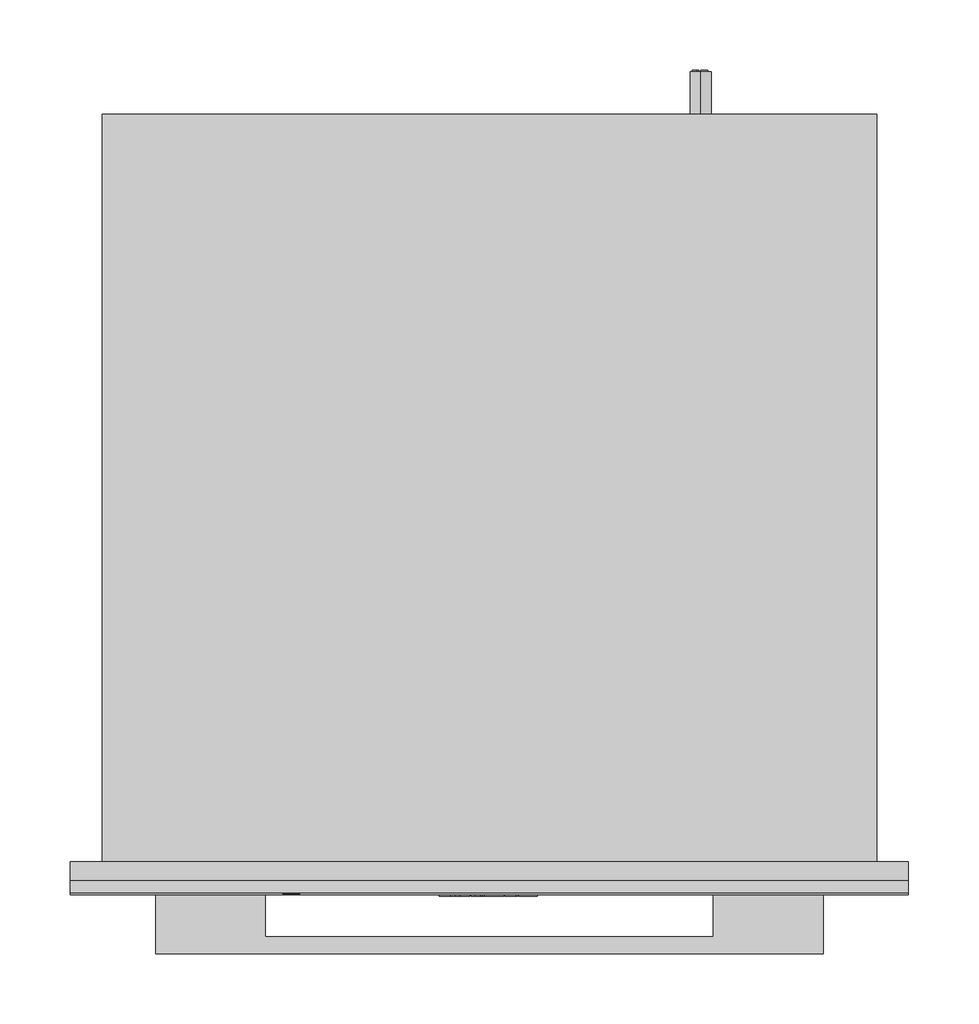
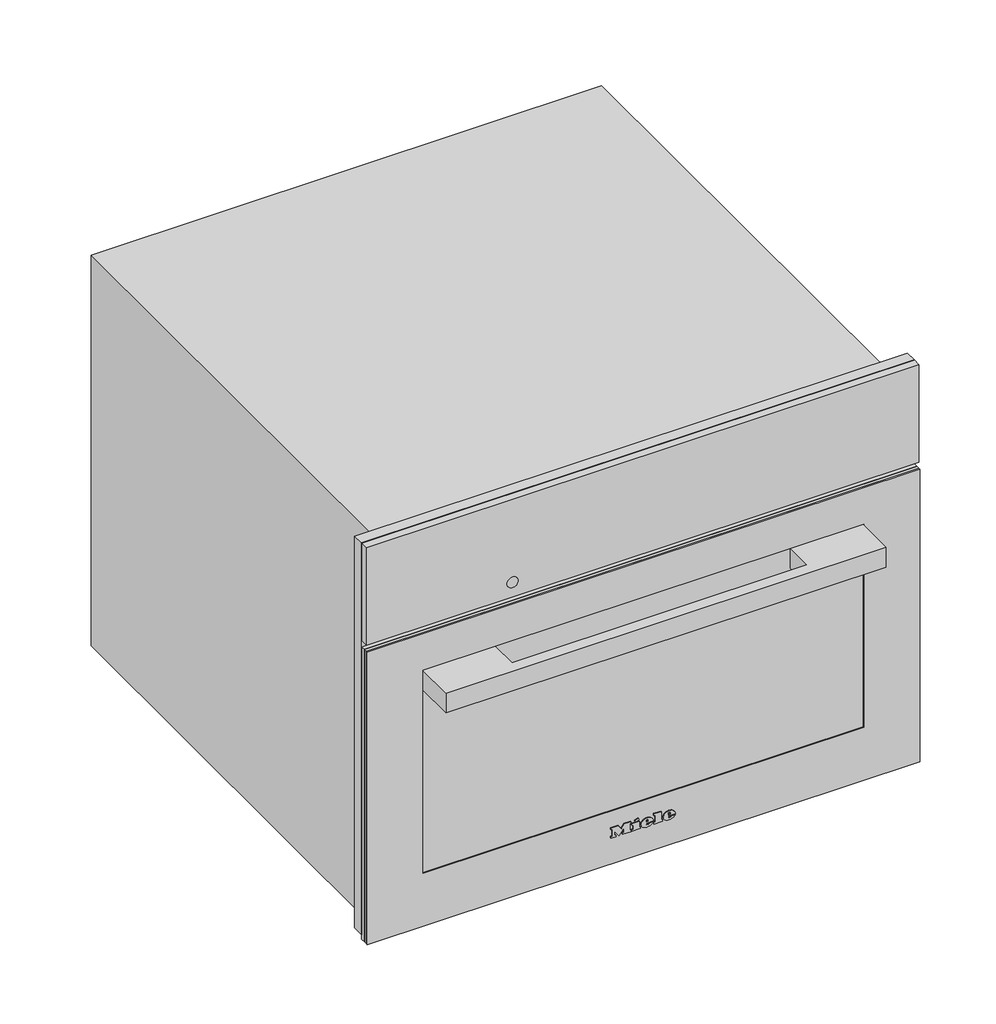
# Not in any storey: 1 proxy.
"""IFC4 building model written with IfcOpenShell, lengths in millimetres."""

import ifcopenshell
import ifcopenshell.guid

model = None  # the IFC model being written
_history = None  # IfcOwnerHistory: only IFC2X3 demands one
_inside = {}  # id of a spatial element -> (the spatial element, [elements in it])
_under = {}  # id of a project, library or spatial element -> (it, [spatial elements below it])
_declared = {}  # id of a project -> (the project, [libraries it declares])
_typed = {}  # id of a type object -> (the type object, [elements of that type])
_made_of = {}  # id of a material, layer set ... -> (it, [elements and type objects made of it])


def new_model(schema):
    """Start an empty IFC model of exactly this schema.

    Asked for "IFC4X3", IfcOpenShell would pick the latest addendum, in which some entities
    have other attributes; the version numbers below select the first issue.
    IFC2X3 requires an IfcOwnerHistory on every rooted entity: one is made here for all.
    """
    global model, _history
    if schema == "IFC4X3":
        model = ifcopenshell.file(schema_version=(4, 3, 0, 0))
    else:
        model = ifcopenshell.file(schema=schema)
    _inside.clear()
    _under.clear()
    _declared.clear()
    _typed.clear()
    _made_of.clear()
    _history = None
    if model.schema == "IFC2X3":
        org = make("IfcOrganization", Name="unknown")
        user = make(
            "IfcPersonAndOrganization",
            ThePerson=make("IfcPerson", FamilyName="unknown"),
            TheOrganization=org,
        )
        app = make(
            "IfcApplication",
            ApplicationDeveloper=org,
            Version="unknown",
            ApplicationFullName="unknown",
            ApplicationIdentifier="unknown",
        )
        _history = make(
            "IfcOwnerHistory",
            OwningUser=user,
            OwningApplication=app,
            ChangeAction="ADDED",
            CreationDate=0,
        )
    return model


def make(cls, **values):
    """One entity of the class cls with the attributes given. An attribute that is None is left unset."""
    return model.create_entity(
        cls, **{name: value for name, value in values.items() if value is not None}
    )


def rooted(cls, **values):
    """An entity with a GlobalId (a new one), such as an element, a storey or a relation."""
    return make(cls, GlobalId=ifcopenshell.guid.new(), OwnerHistory=_history, **values)


def si_unit(unit_type, name, prefix=None):
    """IfcSIUnit, for example si_unit("LENGTHUNIT", "METRE", prefix="MILLI")."""
    return make("IfcSIUnit", UnitType=unit_type, Prefix=prefix, Name=name)


def assignment(units):
    """IfcUnitAssignment: the units of a project."""
    return None if units is None else make("IfcUnitAssignment", Units=units)


def point(xyz):
    """IfcCartesianPoint."""
    return None if xyz is None else make("IfcCartesianPoint", Coordinates=xyz)


def direction(xyz):
    """IfcDirection."""
    return None if xyz is None else make("IfcDirection", DirectionRatios=xyz)


def frame(location, z_axis=None, x_axis=None):
    """IfcAxis2Placement3D, a coordinate frame: its origin and axes. An axis left out is left unset."""
    return make(
        "IfcAxis2Placement3D",
        Location=point(location),
        Axis=direction(z_axis),
        RefDirection=direction(x_axis),
    )


def frame_2d(location, x_axis=None):
    """IfcAxis2Placement2D, a coordinate frame in the plane: its origin and x axis."""
    return make(
        "IfcAxis2Placement2D", Location=point(location), RefDirection=direction(x_axis)
    )


def origin():
    """The frame at (0, 0, 0) with its axes left unset."""
    return frame((0.0, 0.0, 0.0))


def place(relative_to, where):
    """IfcLocalPlacement: puts the frame where relative to a parent placement (None: the world)."""
    return make(
        "IfcLocalPlacement", PlacementRelTo=relative_to, RelativePlacement=where
    )


def context(
    kind, dimensions, precision=None, world=None, true_north=None, identifier=None
):
    """IfcGeometricRepresentationContext, for example the 3D "Model" context."""
    return make(
        "IfcGeometricRepresentationContext",
        ContextIdentifier=identifier,
        ContextType=kind,
        CoordinateSpaceDimension=dimensions,
        Precision=precision,
        WorldCoordinateSystem=world,
        TrueNorth=true_north,
    )


def project(units=None, contexts=None):
    """IfcProject with its units and contexts."""
    return rooted(
        "IfcProject",
        Name="project",
        RepresentationContexts=contexts,
        UnitsInContext=assignment(units),
    )


def spatial(cls, under=None, at=None, **own):
    """A site, building, storey or space (cls), placed at a placement, below another one or the project."""
    s = rooted(cls, ObjectPlacement=at, **own)
    if under is not None:
        _under.setdefault(under.id(), (under, []))[1].append(s)
    return s


def polyline(points):
    """IfcPolyline through the points."""
    return make("IfcPolyline", Points=[point(p) for p in points])


def circle_curve(where, radius):
    """IfcCircle in the frame where."""
    return make("IfcCircle", Position=where, Radius=radius)


def ellipse_curve(where, semi_axis1, semi_axis2):
    """IfcEllipse in the frame where."""
    return make(
        "IfcEllipse", Position=where, SemiAxis1=semi_axis1, SemiAxis2=semi_axis2
    )


def trimmed(basis, trim1, trim2, sense, master):
    """IfcTrimmedCurve: the piece of a basis curve between two trims."""
    return make(
        "IfcTrimmedCurve",
        BasisCurve=basis,
        Trim1=trim1,
        Trim2=trim2,
        SenseAgreement=sense,
        MasterRepresentation=master,
    )


def segment(curve, same_sense, transition):
    """IfcCompositeCurveSegment."""
    return make(
        "IfcCompositeCurveSegment",
        Transition=transition,
        SameSense=same_sense,
        ParentCurve=curve,
    )


def composite_curve(segments, self_intersect=None):
    """IfcCompositeCurve: segments joined end to end."""
    return make("IfcCompositeCurve", Segments=segments, SelfIntersect=self_intersect)


def outline(outer, holes=None, kind="AREA"):
    """IfcArbitraryClosedProfileDef: a profile drawn as a closed curve; with holes, ...WithVoids."""
    if holes is None:
        return make("IfcArbitraryClosedProfileDef", ProfileType=kind, OuterCurve=outer)
    return make(
        "IfcArbitraryProfileDefWithVoids",
        ProfileType=kind,
        OuterCurve=outer,
        InnerCurves=holes,
    )


def extrude(swept, where, along, depth):
    """IfcExtrudedAreaSolid: the profile swept, set in the frame where, extruded along a direction by depth."""
    return make(
        "IfcExtrudedAreaSolid",
        SweptArea=swept,
        Position=where,
        ExtrudedDirection=direction(along),
        Depth=depth,
    )


def faces_of(points, faces, orient=None, outer=None):
    """IfcFace entities. A face is a list of loops; a loop is a list of indices into points, from 0.

    orient and outer hold one flag for each loop. By default every Orientation is true, the
    first loop of a face is its IfcFaceOuterBound and the others are IfcFaceBound.
    """
    made = []
    for i, loops in enumerate(faces):
        bounds = []
        for j, loop in enumerate(loops):
            is_outer = j == 0 if outer is None else outer[i][j]
            bounds.append(
                make(
                    "IfcFaceOuterBound" if is_outer else "IfcFaceBound",
                    Bound=make("IfcPolyLoop", Polygon=[points[k] for k in loop]),
                    Orientation=True if orient is None else orient[i][j],
                )
            )
        made.append(make("IfcFace", Bounds=bounds))
    return made


def faceted_brep(points, faces, orient=None, outer=None, voids=None):
    """IfcFacetedBrep: a solid bounded by flat faces; with voids (closed shells), ...WithVoids."""
    shared = [point(p) for p in points]
    hull = make("IfcClosedShell", CfsFaces=faces_of(shared, faces, orient, outer))
    if voids is None:
        return make("IfcFacetedBrep", Outer=hull)
    return make(
        "IfcFacetedBrepWithVoids",
        Outer=hull,
        Voids=[
            make(cls, CfsFaces=faces_of(shared, fs, o, b)) for cls, fs, o, b in voids
        ],
    )


def shape(context_of_items, identifier, shape_type, items):
    """IfcShapeRepresentation: the items that make up one representation, for example the "Body"."""
    return make(
        "IfcShapeRepresentation",
        ContextOfItems=context_of_items,
        RepresentationIdentifier=identifier,
        RepresentationType=shape_type,
        Items=items,
    )


def source(mapping_origin, context_of_items, identifier, shape_type, items):
    """IfcRepresentationMap: a shape defined once, which mapped items show again and again."""
    return make(
        "IfcRepresentationMap",
        MappingOrigin=mapping_origin,
        MappedRepresentation=shape(context_of_items, identifier, shape_type, items),
    )


def transform(
    local_origin,
    x_axis=None,
    y_axis=None,
    z_axis=None,
    scale=None,
    scale2=None,
    scale3=None,
    uniform=True,
):
    """IfcCartesianTransformationOperator3D, or its non-uniform kind. x_axis, y_axis, z_axis: its Axis1, 2, 3."""
    if uniform:
        return make(
            "IfcCartesianTransformationOperator3D",
            Axis1=direction(x_axis),
            Axis2=direction(y_axis),
            LocalOrigin=point(local_origin),
            Scale=scale,
            Axis3=direction(z_axis),
        )
    return make(
        "IfcCartesianTransformationOperator3DnonUniform",
        Axis1=direction(x_axis),
        Axis2=direction(y_axis),
        LocalOrigin=point(local_origin),
        Scale=scale,
        Axis3=direction(z_axis),
        Scale2=scale2,
        Scale3=scale3,
    )


def mapped(mapping_source, mapping_target):
    """IfcMappedItem: shows the shape of a source again, moved by a transform."""
    return make(
        "IfcMappedItem", MappingSource=mapping_source, MappingTarget=mapping_target
    )


def made_of(thing, what):
    """Note that an element or type object is made of a material, layer set ...; save() writes the relation."""
    if what is not None:
        _made_of.setdefault(what.id(), (what, []))[1].append(thing)
    return thing


def element(
    cls,
    number,
    at=None,
    inside=None,
    cuts=None,
    type_object=None,
    material=None,
    context=None,
    identifier="Body",
    shape_type=None,
    held_by="IfcProductDefinitionShape",
    body=None,
    shapes=None,
    **own,
):
    """One element of the class cls, such as IfcWall. Its Tag is "e" and its number.

    at: its placement. inside: the storey or other place that contains it. cuts: it is an
    opening in that element (IfcRelVoidsElement). A single representation is given by context,
    identifier, shape_type and body (its items); several are given by shapes. held_by: the class
    of the entity that holds the representations. save() writes the other relations.
    """
    e = rooted(cls, Tag="e%d" % number, ObjectPlacement=at, **own)
    if body is not None:
        shapes = [shape(context, identifier, shape_type, body)]
    if shapes is not None:
        e.Representation = make(held_by, Representations=shapes)
    if inside is not None:
        _inside.setdefault(inside.id(), (inside, []))[1].append(e)
    if cuts is not None:
        rooted(
            "IfcRelVoidsElement", RelatingBuildingElement=cuts, RelatedOpeningElement=e
        )
    if type_object is not None:
        _typed.setdefault(type_object.id(), (type_object, []))[1].append(e)
    return made_of(e, material)


def aggregate(whole, parts):
    """IfcRelAggregates: a whole, such as a stair, and the parts it consists of."""
    return rooted("IfcRelAggregates", RelatingObject=whole, RelatedObjects=parts)


def save(model, path):
    """Write the relations noted so far, then the file.

    IfcRelAggregates (storeys below a building ...), IfcRelContainedInSpatialStructure (elements
    in a storey), IfcRelDefinesByType, IfcRelAssociatesMaterial and IfcRelDeclares: one each for
    every whole, place, type object, material and project.
    """
    for whole, parts in _under.values():
        aggregate(whole, parts)
    for where, things in _inside.values():
        rooted(
            "IfcRelContainedInSpatialStructure",
            RelatedElements=things,
            RelatingStructure=where,
        )
    for kind, things in _typed.values():
        rooted("IfcRelDefinesByType", RelatedObjects=things, RelatingType=kind)
    for what, things in _made_of.values():
        rooted("IfcRelAssociatesMaterial", RelatedObjects=things, RelatingMaterial=what)
    for by, libraries in _declared.values():
        rooted("IfcRelDeclares", RelatingContext=by, RelatedDefinitions=libraries)
    model.write(path)


def plane_surface(at):
    """IfcPlane: the flat surface through the origin of the frame at, square to its z axis."""
    return make("IfcPlane", Position=at)


def cylinder_surface(at, radius):
    """IfcCylindricalSurface: all points at the distance radius from the z axis of the frame at."""
    return make("IfcCylindricalSurface", Position=at, Radius=radius)


def revolved_surface(curve, axis_point, axis_direction):
    """IfcSurfaceOfRevolution: the curve turned about the line through axis_point along axis_direction."""
    return make(
        "IfcSurfaceOfRevolution",
        SweptCurve=make("IfcArbitraryOpenProfileDef", ProfileType="CURVE", Curve=curve),
        AxisPosition=make("IfcAxis1Placement", Location=point(axis_point), Axis=direction(axis_direction)),
    )


def extruded_surface(curve, direction_of_extrusion, depth):
    """IfcSurfaceOfLinearExtrusion: the curve pushed along a direction by depth."""
    return make(
        "IfcSurfaceOfLinearExtrusion",
        SweptCurve=make("IfcArbitraryOpenProfileDef", ProfileType="CURVE", Curve=curve),
        ExtrudedDirection=direction(direction_of_extrusion),
        Depth=depth,
    )


def advanced_brep(points, edges, surfaces, faces):
    """IfcAdvancedBrep: a solid bounded by faces that lie on surfaces and meet in shared edges.

    An edge is (start, end): straight between two places in points (the first is 0);
    or (start, end, curve); or (start, end, curve, False) where it runs against its curve.
    A face is (place in surfaces, loops), or (place, loops, False) where it looks against
    its surface's normal. A loop lists edges by number (the first is 1), with a minus sign
    where the edge is run from its end to its start. The first loop is the outer one.
    """
    corners = [point(p) for p in points]
    vertices = [make("IfcVertexPoint", VertexGeometry=c) for c in corners]
    made = []
    for start, end, *more in edges:
        made.append(
            make(
                "IfcEdgeCurve",
                EdgeStart=vertices[start],
                EdgeEnd=vertices[end],
                EdgeGeometry=more[0] if more else make("IfcPolyline", Points=[corners[start], corners[end]]),
                SameSense=more[1] if len(more) > 1 else True,
            )
        )
    hull = []
    for where, loops, *sense in faces:
        bounds = []
        for j, loop in enumerate(loops):
            ring = [make("IfcOrientedEdge", EdgeElement=made[abs(k) - 1], Orientation=k > 0) for k in loop]
            bounds.append(
                make(
                    "IfcFaceOuterBound" if j == 0 else "IfcFaceBound",
                    Bound=make("IfcEdgeLoop", EdgeList=ring),
                    Orientation=True,
                )
            )
        hull.append(make("IfcAdvancedFace", Bounds=bounds, FaceSurface=surfaces[where], SameSense=sense[0] if sense else True))
    return make("IfcAdvancedBrep", Outer=make("IfcClosedShell", CfsFaces=hull))


def specialty_equipment_3689ec75(model_context):
    return source(origin(), model_context, "Body", "SolidModel", [
        extrude(outline(polyline([(455.0, 297.5), (455.0, -297.5), (9.0, -297.5), (9.0, -272.5), (344.0, -272.5), (344.0, 272.5), (9.0, 272.5), (9.0, 297.5), (455.0, 297.5)])), frame((0.0, -13.0, 0.0), z_axis=(0.0, 1.0, 0.0), x_axis=(0.0, 0.0, 1.0)), (0.0, 0.0, 1.0), 13.0),
        advanced_brep(
        [(150.0, 561.0, 410.5), (150.0, 561.0, 395.5), (144.4098301, 561.0, 398.0), (148.5, 561.0, 398.0), (148.5, 561.0, 408.0), (147.4955303, 561.0, 408.0), (147.4955303, 561.0, 399.0), (144.0315043, 561.0, 399.0), (144.0315043, 561.0, 398.4582978), (155.0, 561.0, 398.0), (155.0, 561.0, 408.0), (150.0, 561.0, 408.0), (150.0, 561.0, 407.0), (154.0, 561.0, 407.0), (154.0, 561.0, 403.5), (151.0, 561.0, 403.5), (151.0, 561.0, 402.5), (154.0, 561.0, 402.5), (154.0, 561.0, 399.0), (150.0, 561.0, 399.0), (150.0, 561.0, 398.0), (150.0, 531.0, 395.5), (150.0, 531.0, 410.5), (155.0, 562.0, 408.0), (155.0, 562.0, 398.0), (150.0, 562.0, 398.0), (150.0, 562.0, 399.0), (154.0, 562.0, 399.0), (154.0, 562.0, 402.5), (151.0, 562.0, 402.5), (151.0, 562.0, 403.5), (154.0, 562.0, 403.5), (154.0, 562.0, 407.0), (150.0, 562.0, 407.0), (150.0, 562.0, 408.0), (148.5, 562.0, 398.0), (144.0315043, 562.0, 398.0), (144.0315043, 562.0, 399.0), (147.4955303, 562.0, 399.0), (147.4955303, 562.0, 408.0), (148.5, 562.0, 408.0), (144.0315043, 561.0, 398.0)],
        [
            (0, 1, circle_curve(frame((150.0, 561.0, 403.0), z_axis=(0.0, 1.0, 0.0), x_axis=(0.0, 0.0, 1.0)), 7.5)),
            (1, 2, circle_curve(frame((150.0, 561.0, 403.0), z_axis=(0.0, 1.0, 0.0), x_axis=(0.0, 0.0, 1.0)), 7.5)),
            (2, 3),
            (3, 4),
            (4, 5),
            (5, 6),
            (6, 7),
            (7, 8),
            (8, 0, circle_curve(frame((150.0, 561.0, 403.0), z_axis=(0.0, 1.0, 0.0), x_axis=(0.0, 0.0, 1.0)), 7.5)),
            (9, 10),
            (10, 11),
            (11, 12),
            (12, 13),
            (13, 14),
            (14, 15),
            (15, 16),
            (16, 17),
            (17, 18),
            (18, 19),
            (19, 20),
            (20, 9),
            (21, 22, circle_curve(frame((150.0, 531.0, 403.0), z_axis=(0.0, -1.0, 0.0), x_axis=(0.0, 0.0, 1.0)), 7.5)),
            (22, 21, circle_curve(frame((150.0, 531.0, 403.0), z_axis=(0.0, -1.0, 0.0), x_axis=(0.0, 0.0, 1.0)), 7.5)),
            (0, 22),
            (21, 1),
            (8, 2, circle_curve(frame((150.0, 561.0, 403.0), z_axis=(0.0, -1.0, 0.0), x_axis=(0.0, 0.0, 1.0)), 7.5)),
            (23, 24),
            (24, 25),
            (25, 26),
            (26, 27),
            (27, 28),
            (28, 29),
            (29, 30),
            (30, 31),
            (31, 32),
            (32, 33),
            (33, 34),
            (34, 23),
            (35, 36),
            (36, 37),
            (37, 38),
            (38, 39),
            (39, 40),
            (40, 35),
            (8, 41),
            (41, 2),
            (23, 10),
            (9, 24),
            (20, 25),
            (19, 26),
            (18, 27),
            (17, 28),
            (16, 29),
            (15, 30),
            (14, 31),
            (13, 32),
            (12, 33),
            (11, 34),
            (35, 3),
            (41, 36),
            (7, 37),
            (6, 38),
            (5, 39),
            (4, 40),
        ],
        [
            plane_surface(frame((150.0, 561.0, 410.5), z_axis=(0.0, 1.0, 0.0), x_axis=(1.0, 0.0, 0.0))),
            plane_surface(frame((150.0, 531.0, 410.5), z_axis=(0.0, -1.0, 0.0), x_axis=(-1.0, 0.0, 0.0))),
            cylinder_surface(frame((150.0, 561.0, 403.0), z_axis=(0.0, -1.0, 0.0), x_axis=(0.0, 0.0, 1.0)), 7.5),
            plane_surface(frame((155.0, 562.0, 408.0), z_axis=(0.0, 1.0, 0.0), x_axis=(0.0, 0.0, -1.0))),
            plane_surface(frame((155.0, 561.0, 408.0), z_axis=(0.0, -1.0, 0.0), x_axis=(0.0, 0.0, 1.0))),
            plane_surface(frame((155.0, 562.0, 408.0), z_axis=(1.0, 0.0, 0.0), x_axis=(0.0, -1.0, 0.0))),
            plane_surface(frame((155.0, 562.0, 398.0), z_axis=(0.0, 0.0, -1.0), x_axis=(0.0, -1.0, 0.0))),
            plane_surface(frame((150.0, 562.0, 398.0), z_axis=(-1.0, 0.0, 0.0), x_axis=(0.0, -1.0, 0.0))),
            plane_surface(frame((150.0, 562.0, 399.0), z_axis=(0.0, 0.0, 1.0), x_axis=(0.0, -1.0, 0.0))),
            plane_surface(frame((154.0, 562.0, 399.0), z_axis=(-1.0, 0.0, 0.0), x_axis=(0.0, -1.0, 0.0))),
            plane_surface(frame((154.0, 562.0, 402.5), z_axis=(0.0, 0.0, -1.0), x_axis=(0.0, -1.0, 0.0))),
            plane_surface(frame((151.0, 562.0, 402.5), z_axis=(-1.0, 0.0, 0.0), x_axis=(0.0, -1.0, 0.0))),
            plane_surface(frame((151.0, 562.0, 403.5), z_axis=(0.0, 0.0, 1.0), x_axis=(0.0, -1.0, 0.0))),
            plane_surface(frame((154.0, 562.0, 403.5), z_axis=(-1.0, 0.0, 0.0), x_axis=(0.0, -1.0, 0.0))),
            plane_surface(frame((154.0, 562.0, 407.0), z_axis=(0.0, 0.0, -1.0), x_axis=(0.0, -1.0, 0.0))),
            plane_surface(frame((150.0, 562.0, 407.0), z_axis=(-1.0, 0.0, 0.0), x_axis=(0.0, -1.0, 0.0))),
            plane_surface(frame((150.0, 562.0, 408.0), z_axis=(0.0, 0.0, 1.0), x_axis=(0.0, -1.0, 0.0))),
            plane_surface(frame((148.5, 562.0, 398.0), z_axis=(0.0, 0.0, -1.0), x_axis=(0.0, -1.0, 0.0))),
            plane_surface(frame((144.0315043, 562.0, 398.0), z_axis=(-1.0, 0.0, 0.0), x_axis=(0.0, -1.0, 0.0))),
            plane_surface(frame((144.0315043, 562.0, 399.0), z_axis=(0.0, 0.0, 1.0), x_axis=(0.0, -1.0, 0.0))),
            plane_surface(frame((147.4955303, 562.0, 399.0), z_axis=(-1.0, 0.0, 0.0), x_axis=(0.0, -1.0, 0.0))),
            plane_surface(frame((147.4955303, 562.0, 408.0), z_axis=(0.0, 0.0, 1.0), x_axis=(0.0, -1.0, 0.0))),
            plane_surface(frame((148.5, 562.0, 408.0), z_axis=(1.0, 0.0, 0.0), x_axis=(0.0, -1.0, 0.0))),
        ],
        [
            (0, [[1, 2, 3, 4, 5, 6, 7, 8, 9], [10, 11, 12, 13, 14, 15, 16, 17, 18, 19, 20, 21]]),
            (1, [[22, 23]]),
            (2, [[-1, 24, -22, 25]]),
            (2, [[-23, -24, -9, 26, -2, -25]]),
            (3, [[27, 28, 29, 30, 31, 32, 33, 34, 35, 36, 37, 38]]),
            (3, [[39, 40, 41, 42, 43, 44]]),
            (4, [[45, 46, -26]]),
            (5, [[-27, 47, -10, 48]]),
            (6, [[-28, -48, -21, 49]]),
            (7, [[-29, -49, -20, 50]]),
            (8, [[-30, -50, -19, 51]]),
            (9, [[-31, -51, -18, 52]]),
            (10, [[-32, -52, -17, 53]]),
            (11, [[-33, -53, -16, 54]]),
            (12, [[-34, -54, -15, 55]]),
            (13, [[-35, -55, -14, 56]]),
            (14, [[-36, -56, -13, 57]]),
            (15, [[-37, -57, -12, 58]]),
            (16, [[-38, -58, -11, -47]]),
            (17, [[-39, 59, -3, -46, 60]]),
            (18, [[-40, -60, -45, -8, 61]]),
            (19, [[-41, -61, -7, 62]]),
            (20, [[-42, -62, -6, 63]]),
            (21, [[-43, -63, -5, 64]]),
            (22, [[-44, -64, -4, -59]]),
        ],
    ),
        faceted_brep([(275.0, 531.0, 445.0), (275.0, 531.0, 0.0), (-275.0, 531.0, 0.0), (-275.0, 531.0, 445.0), (275.0, 0.0, 445.0), (-275.0, 0.0, 445.0), (-275.0, 0.0, 0.0), (275.0, 0.0, 0.0), (-272.5, 0.0, 344.0), (272.5, 0.0, 344.0), (272.5, 0.0, 8.0), (-272.5, 0.0, 8.0), (272.5, 12.0, 344.0), (-272.5, 12.0, 344.0), (-272.5, 12.0, 8.0), (272.5, 12.0, 8.0), (161.0, 12.0, 286.0), (161.0, 12.0, 58.0), (-220.0, 12.0, 58.0), (-220.0, 12.0, 286.0), (161.0, 419.0, 286.0), (-220.0, 419.0, 286.0), (-220.0, 419.0, 58.0), (161.0, 419.0, 58.0)], [[[0, 1, 2, 3]], [[4, 5, 6, 7], [8, 9, 10, 11]], [[0, 3, 5, 4]], [[3, 2, 6, 5]], [[2, 1, 7, 6]], [[1, 0, 4, 7]], [[12, 13, 14, 15], [16, 17, 18, 19]], [[13, 12, 9, 8]], [[14, 13, 8, 11]], [[15, 14, 11, 10]], [[12, 15, 10, 9]], [[20, 21, 22, 23]], [[20, 23, 17, 16]], [[23, 22, 18, 17]], [[22, 21, 19, 18]], [[21, 20, 16, 19]]]),
        advanced_brep(
        [(26.2998, -24.3, 36.7018), (26.2998, -24.3, 37.8532), (33.9264, -24.3, 37.8532), (20.6568, -24.3, 37.8532), (23.7918, -24.3, 34.0), (33.7326, -24.3, 36.7018), (30.2898, -24.3, 36.7018), (27.5766, -24.3, 35.425), (26.2998, -24.3, 39.3124), (26.2998, -24.3, 40.555), (28.2492, -24.3, 40.555), (28.2492, -24.3, 39.3124), (26.2998, -23.3, 36.7018), (27.5766, -23.3, 35.425), (30.2898, -23.3, 36.7018), (33.7326, -23.3, 36.7018), (23.7918, -23.3, 34.0), (20.6568, -23.3, 37.8532), (33.9264, -23.3, 37.8532), (26.2998, -23.3, 37.8532), (26.2998, -23.3, 39.3124), (28.2492, -23.3, 39.3124), (28.2492, -23.3, 40.555), (26.2998, -23.3, 40.555)],
        [
            (0, 1),
            (1, 2),
            (2, 3, ellipse_curve(frame((27.2916, -24.3, 37.8532), z_axis=(0.0, -1.0, 0.0), x_axis=(-1.0, 0.0, 0.0)), 6.6348, 5.4834)),
            (3, 4, circle_curve(frame((25.0686622, -24.3, 38.2408), z_axis=(0.0, -1.0, 0.0), x_axis=(0.0, 0.0, -1.0)), 4.4288556)),
            (4, 5, circle_curve(frame((27.1587808, -24.3, 41.2504), z_axis=(0.0, -1.0, 0.0), x_axis=(0.0, 0.0, -1.0)), 7.9940516)),
            (5, 6),
            (6, 7, circle_curve(frame((28.1338588, -24.3, 37.762), z_axis=(0.0, 1.0, 0.0), x_axis=(0.0, 0.0, -1.0)), 2.4025208)),
            (7, 0, circle_curve(frame((27.5766, -24.3, 36.7018), z_axis=(0.0, 1.0, 0.0), x_axis=(0.0, 0.0, -1.0)), 1.2768)),
            (8, 9),
            (9, 10, circle_curve(frame((27.2745, -24.3, 40.555), z_axis=(0.0, 1.0, 0.0), x_axis=(0.0, 0.0, -1.0)), 0.9747)),
            (10, 11),
            (11, 8),
            (12, 13, circle_curve(frame((27.5766, -23.3, 36.7018), z_axis=(0.0, -1.0, 0.0), x_axis=(0.0, 0.0, -1.0)), 1.2768)),
            (13, 14, circle_curve(frame((28.1338588, -23.3, 37.762), z_axis=(0.0, -1.0, 0.0), x_axis=(0.0, 0.0, -1.0)), 2.4025208)),
            (14, 15),
            (15, 16, circle_curve(frame((27.1587808, -23.3, 41.2504), z_axis=(0.0, 1.0, 0.0), x_axis=(0.0, 0.0, -1.0)), 7.9940516)),
            (16, 17, circle_curve(frame((25.0686622, -23.3, 38.2408), z_axis=(0.0, 1.0, 0.0), x_axis=(0.0, 0.0, -1.0)), 4.4288556)),
            (17, 18, ellipse_curve(frame((27.2916, -23.3, 37.8532), z_axis=(0.0, 1.0, 0.0), x_axis=(-1.0, 0.0, 0.0)), 6.6348, 5.4834)),
            (18, 19),
            (19, 12),
            (20, 21),
            (21, 22),
            (22, 23, circle_curve(frame((27.2745, -23.3, 40.555), z_axis=(0.0, -1.0, 0.0), x_axis=(0.0, 0.0, -1.0)), 0.9747)),
            (23, 20),
            (0, 12),
            (19, 1),
            (18, 2),
            (5, 15),
            (14, 6),
            (17, 3),
            (13, 7),
            (16, 4),
            (8, 20),
            (23, 9),
            (22, 10),
            (21, 11),
        ],
        [
            plane_surface(frame((26.2998, -24.3, 37.8532), z_axis=(0.0, -1.0, 0.0), x_axis=(0.0, 0.0, 1.0))),
            plane_surface(frame((26.2998, -23.3, 37.8532), z_axis=(0.0, 1.0, 0.0), x_axis=(0.0, 0.0, -1.0))),
            plane_surface(frame((26.2998, -24.3, 36.7018), z_axis=(1.0, 0.0, 0.0), x_axis=(0.0, 1.0, 0.0))),
            plane_surface(frame((26.2998, -24.3, 37.8532), z_axis=(0.0, 0.0, -1.0), x_axis=(0.0, 1.0, 0.0))),
            plane_surface(frame((33.7326, -24.3, 36.7018), z_axis=(0.0, 0.0, 1.0), x_axis=(0.0, 1.0, 0.0))),
            extruded_surface(trimmed(ellipse_curve(frame((27.2916, -22.3, 37.8532), z_axis=(0.0, -1.0, 0.0), x_axis=(-1.0, 0.0, 0.0)), 6.6348, 5.4834), [point((33.9264, -22.3, 37.8532))], [point((20.6568, -22.3, 37.8532))], True, "CARTESIAN"), (0.0, -1.0, 0.0), 1.0),
            revolved_surface(polyline([(28.1338588, -23.3, 35.3594792), (28.1338588, -24.3, 35.3594792)]), (28.1338588, -23.3, 37.762), (0.0, 1.0, 0.0)),
            revolved_surface(polyline([(27.5766, -23.3, 35.425), (27.5766, -24.3, 35.425)]), (27.5766, -23.3, 36.7018), (0.0, 1.0, 0.0)),
            cylinder_surface(frame((25.0686622, -23.3, 38.2408), z_axis=(0.0, -1.0, 0.0), x_axis=(0.0, 0.0, -1.0)), 4.4288556),
            cylinder_surface(frame((27.1587808, -23.3, 41.2504), z_axis=(0.0, -1.0, 0.0), x_axis=(0.0, 0.0, -1.0)), 7.9940516),
            plane_surface(frame((26.2998, -24.3, 39.3124), z_axis=(1.0, 0.0, 0.0), x_axis=(0.0, 1.0, 0.0))),
            revolved_surface(polyline([(27.2745, -23.3, 39.5803), (27.2745, -24.3, 39.5803)]), (27.2745, -23.3, 40.555), (0.0, 1.0, 0.0)),
            plane_surface(frame((28.2492, -24.3, 40.555), z_axis=(-1.0, 0.0, 0.0), x_axis=(0.0, 1.0, 0.0))),
            plane_surface(frame((28.2492, -24.3, 39.3124), z_axis=(0.0, 0.0, 1.0), x_axis=(0.0, 1.0, 0.0))),
        ],
        [
            (0, [[1, 2, 3, 4, 5, 6, 7, 8], [9, 10, 11, 12]]),
            (1, [[13, 14, 15, 16, 17, 18, 19, 20], [21, 22, 23, 24]]),
            (2, [[-1, 25, -20, 26]]),
            (3, [[-2, -26, -19, 27]]),
            (4, [[-6, 28, -15, 29]]),
            (5, [[-3, -27, -18, 30]]),
            (6, [[-7, -29, -14, 31]]),
            (7, [[-8, -31, -13, -25]]),
            (8, [[-4, -30, -17, 32]]),
            (9, [[-5, -32, -16, -28]]),
            (10, [[-9, 33, -24, 34]]),
            (11, [[-10, -34, -23, 35]]),
            (12, [[-11, -35, -22, 36]]),
            (13, [[-12, -36, -21, -33]]),
        ],
    ),
        advanced_brep(
        [(2.508, -24.3, 36.7018), (2.508, -24.3, 37.8532), (10.1346, -24.3, 37.8532), (-3.135, -24.3, 37.8532), (0.0, -24.3, 34.0), (9.9408, -24.3, 36.7018), (6.498, -24.3, 36.7018), (3.7848, -24.3, 35.425), (2.508, -24.3, 39.3124), (2.508, -24.3, 40.555), (4.4574, -24.3, 40.555), (4.4574, -24.3, 39.3124), (2.508, -23.3, 36.7018), (3.7848, -23.3, 35.425), (6.498, -23.3, 36.7018), (9.9408, -23.3, 36.7018), (0.0, -23.3, 34.0), (-3.135, -23.3, 37.8532), (10.1346, -23.3, 37.8532), (2.508, -23.3, 37.8532), (2.508, -23.3, 39.3124), (4.4574, -23.3, 39.3124), (4.4574, -23.3, 40.555), (2.508, -23.3, 40.555)],
        [
            (0, 1),
            (1, 2),
            (2, 3, ellipse_curve(frame((3.4998, -24.3, 37.8532), z_axis=(0.0, -1.0, 0.0), x_axis=(-1.0, 0.0, 0.0)), 6.6348, 5.4834)),
            (3, 4, circle_curve(frame((1.2768622, -24.3, 38.2408), z_axis=(0.0, -1.0, 0.0), x_axis=(0.0, 0.0, -1.0)), 4.4288556)),
            (4, 5, circle_curve(frame((3.3669808, -24.3, 41.2504), z_axis=(0.0, -1.0, 0.0), x_axis=(0.0, 0.0, -1.0)), 7.9940516)),
            (5, 6),
            (6, 7, circle_curve(frame((4.3420588, -24.3, 37.762), z_axis=(0.0, 1.0, 0.0), x_axis=(0.0, 0.0, -1.0)), 2.4025208)),
            (7, 0, circle_curve(frame((3.7848, -24.3, 36.7018), z_axis=(0.0, 1.0, 0.0), x_axis=(0.0, 0.0, -1.0)), 1.2768)),
            (8, 9),
            (9, 10, circle_curve(frame((3.4827, -24.3, 40.555), z_axis=(0.0, 1.0, 0.0), x_axis=(0.0, 0.0, -1.0)), 0.9747)),
            (10, 11),
            (11, 8),
            (12, 13, circle_curve(frame((3.7848, -23.3, 36.7018), z_axis=(0.0, -1.0, 0.0), x_axis=(0.0, 0.0, -1.0)), 1.2768)),
            (13, 14, circle_curve(frame((4.3420588, -23.3, 37.762), z_axis=(0.0, -1.0, 0.0), x_axis=(0.0, 0.0, -1.0)), 2.4025208)),
            (14, 15),
            (15, 16, circle_curve(frame((3.3669808, -23.3, 41.2504), z_axis=(0.0, 1.0, 0.0), x_axis=(0.0, 0.0, -1.0)), 7.9940516)),
            (16, 17, circle_curve(frame((1.2768622, -23.3, 38.2408), z_axis=(0.0, 1.0, 0.0), x_axis=(0.0, 0.0, -1.0)), 4.4288556)),
            (17, 18, ellipse_curve(frame((3.4998, -23.3, 37.8532), z_axis=(0.0, 1.0, 0.0), x_axis=(-1.0, 0.0, 0.0)), 6.6348, 5.4834)),
            (18, 19),
            (19, 12),
            (20, 21),
            (21, 22),
            (22, 23, circle_curve(frame((3.4827, -23.3, 40.555), z_axis=(0.0, -1.0, 0.0), x_axis=(0.0, 0.0, -1.0)), 0.9747)),
            (23, 20),
            (0, 12),
            (19, 1),
            (18, 2),
            (5, 15),
            (14, 6),
            (17, 3),
            (13, 7),
            (16, 4),
            (8, 20),
            (23, 9),
            (22, 10),
            (21, 11),
        ],
        [
            plane_surface(frame((2.508, -24.3, 37.8532), z_axis=(0.0, -1.0, 0.0), x_axis=(0.0, 0.0, 1.0))),
            plane_surface(frame((2.508, -23.3, 37.8532), z_axis=(0.0, 1.0, 0.0), x_axis=(0.0, 0.0, -1.0))),
            plane_surface(frame((2.508, -24.3, 36.7018), z_axis=(1.0, 0.0, 0.0), x_axis=(0.0, 1.0, 0.0))),
            plane_surface(frame((2.508, -24.3, 37.8532), z_axis=(0.0, 0.0, -1.0), x_axis=(0.0, 1.0, 0.0))),
            plane_surface(frame((9.9408, -24.3, 36.7018), z_axis=(0.0, 0.0, 1.0), x_axis=(0.0, 1.0, 0.0))),
            extruded_surface(trimmed(ellipse_curve(frame((3.4998, -22.3, 37.8532), z_axis=(0.0, -1.0, 0.0), x_axis=(-1.0, 0.0, 0.0)), 6.6348, 5.4834), [point((10.1346, -22.3, 37.8532))], [point((-3.135, -22.3, 37.8532))], True, "CARTESIAN"), (0.0, -1.0, 0.0), 1.0),
            revolved_surface(polyline([(4.3420588, -23.3, 35.3594792), (4.3420588, -24.3, 35.3594792)]), (4.3420588, -23.3, 37.762), (0.0, 1.0, 0.0)),
            revolved_surface(polyline([(3.7848, -23.3, 35.425), (3.7848, -24.3, 35.425)]), (3.7848, -23.3, 36.7018), (0.0, 1.0, 0.0)),
            cylinder_surface(frame((1.2768622, -23.3, 38.2408), z_axis=(0.0, -1.0, 0.0), x_axis=(0.0, 0.0, -1.0)), 4.4288556),
            cylinder_surface(frame((3.3669808, -23.3, 41.2504), z_axis=(0.0, -1.0, 0.0), x_axis=(0.0, 0.0, -1.0)), 7.9940516),
            plane_surface(frame((2.508, -24.3, 39.3124), z_axis=(1.0, 0.0, 0.0), x_axis=(0.0, 1.0, 0.0))),
            revolved_surface(polyline([(3.4827, -23.3, 39.5803), (3.4827, -24.3, 39.5803)]), (3.4827, -23.3, 40.555), (0.0, 1.0, 0.0)),
            plane_surface(frame((4.4574, -24.3, 40.555), z_axis=(-1.0, 0.0, 0.0), x_axis=(0.0, 1.0, 0.0))),
            plane_surface(frame((4.4574, -24.3, 39.3124), z_axis=(0.0, 0.0, 1.0), x_axis=(0.0, 1.0, 0.0))),
        ],
        [
            (0, [[1, 2, 3, 4, 5, 6, 7, 8], [9, 10, 11, 12]]),
            (1, [[13, 14, 15, 16, 17, 18, 19, 20], [21, 22, 23, 24]]),
            (2, [[-1, 25, -20, 26]]),
            (3, [[-2, -26, -19, 27]]),
            (4, [[-6, 28, -15, 29]]),
            (5, [[-3, -27, -18, 30]]),
            (6, [[-7, -29, -14, 31]]),
            (7, [[-8, -31, -13, -25]]),
            (8, [[-4, -30, -17, 32]]),
            (9, [[-5, -32, -16, -28]]),
            (10, [[-9, 33, -24, 34]]),
            (11, [[-10, -34, -23, 35]]),
            (12, [[-11, -35, -22, 36]]),
            (13, [[-12, -36, -21, -33]]),
        ],
    ),
        extrude(outline(polyline([(44.7274, -9.9522), (42.8806, -9.0858), (44.6818, -5.2212), (46.5286, -6.0762), (44.7274, -9.9522)])), frame((0.0, -24.3, 0.0), z_axis=(0.0, 1.0, 0.0), x_axis=(0.0, 0.0, 1.0)), (0.0, 0.0, 1.0), 1.0),
        extrude(outline(polyline([(42.6298, -12.768), (40.5892, -12.768), (40.5892, -11.4114), (35.9152, -11.4114), (35.9152, -12.768), (34.0, -12.768), (34.0, -3.7734), (35.9152, -3.7734), (35.9152, -5.0958), (42.6298, -5.0958), (42.6298, -12.768)])), frame((0.0, -24.3, 0.0), z_axis=(0.0, 1.0, 0.0), x_axis=(0.0, 0.0, 1.0)), (0.0, 0.0, 1.0), 1.0),
        extrude(outline(polyline([(43.5418, 10.773), (43.5418, 12.141), (35.9152, 12.141), (35.9152, 10.773), (34.0, 10.773), (34.0, 20.0184), (35.9152, 20.0184), (35.9152, 18.6162), (45.4, 18.6162), (45.4, 10.773), (43.5418, 10.773)])), frame((0.0, -24.3, 0.0), z_axis=(0.0, 1.0, 0.0), x_axis=(0.0, 0.0, 1.0)), (0.0, 0.0, 1.0), 1.0),
        extrude(outline(polyline([(43.5418, -35.4882), (43.5418, -34.1088), (35.9152, -34.1088), (35.9152, -35.4882), (34.0, -35.4882), (34.0, -30.4722), (35.9152, -30.4722), (35.9152, -31.8402), (40.7429247, -31.8402), (34.0, -26.7444), (40.9402223, -21.6258), (35.9152, -21.6258), (35.9152, -23.028), (34.0, -23.028), (34.0, -13.9308), (35.9152, -13.9308), (35.9152, -15.3786), (43.5418, -15.3786), (43.5418, -13.9308), (45.4, -13.9308), (45.4, -20.8734), (41.125, -24.2022), (45.4, -27.5424), (45.4, -35.4882), (43.5418, -35.4882)])), frame((0.0, -24.3, 0.0), z_axis=(0.0, 1.0, 0.0), x_axis=(0.0, 0.0, 1.0)), (0.0, 0.0, 1.0), 1.0),
        extrude(outline(polyline([(297.5, -22.0), (-297.5, -22.0), (-297.5, -13.0), (297.5, -13.0), (297.5, -22.0)])), frame((0.0, 0.0, 344.0), z_axis=(0.0, 0.0, 1.0), x_axis=(1.0, 0.0, 0.0)), (0.0, 0.0, 1.0), 111.0),
        extrude(outline(composite_curve([segment(trimmed(circle_curve(frame_2d((361.0, -140.5745637)), 6.0), [point((361.0, -146.5745637))], [point((361.0, -134.5745637))], False, "CARTESIAN"), True, "CONTINUOUS"), segment(trimmed(circle_curve(frame_2d((361.0, -140.5745637)), 6.0), [point((361.0, -134.5745637))], [point((361.0, -146.5745637))], False, "CARTESIAN"), True, "CONTINUOUS")], self_intersect=False)), frame((0.0, -22.5, 0.0), z_axis=(0.0, 1.0, 0.0), x_axis=(0.0, 0.0, 1.0)), (0.0, 0.0, 1.0), 1.0),
        extrude(outline(polyline([(297.5, -18.0), (-297.5, -18.0), (-297.5, -13.0), (297.5, -13.0), (297.5, -18.0)])), frame((0.0, 0.0, 4.0), z_axis=(0.0, 0.0, 1.0), x_axis=(1.0, 0.0, 0.0)), (0.0, 0.0, 1.0), 333.0),
        extrude(outline(polyline([(337.0, 297.5), (337.0, -297.5), (4.0, -297.5), (4.0, 297.5), (337.0, 297.5)]), holes=[polyline([(295.5, -237.5), (295.5, 237.5), (64.0, 237.5), (64.0, -237.5), (295.5, -237.5)])]), frame((0.0, -23.3, 0.0), z_axis=(0.0, 1.0, 0.0), x_axis=(0.0, 0.0, 1.0)), (0.0, 0.0, 1.0), 1.3),
        extrude(outline(polyline([(-159.0, -22.0), (-159.0, -53.0), (159.0, -53.0), (159.0, -22.0), (237.0, -22.0), (237.0, -65.0), (-237.0, -65.0), (-237.0, -22.0), (-159.0, -22.0)])), frame((0.0, 0.0, 272.0), z_axis=(0.0, 0.0, 1.0), x_axis=(1.0, 0.0, 0.0)), (0.0, 0.0, 1.0), 22.5),
        extrude(outline(polyline([(297.5, -22.0), (-297.5, -22.0), (-297.5, -18.0), (297.5, -18.0), (297.5, -22.0)])), frame((0.0, 0.0, 4.0), z_axis=(0.0, 0.0, 1.0), x_axis=(1.0, 0.0, 0.0)), (0.0, 0.0, 1.0), 333.0),
    ])


model = new_model("IFC4")

# Units and contexts
model_context = context("Model", 3, world=origin())
ifc_project = project(units=[si_unit("LENGTHUNIT", "METRE", prefix="MILLI")], contexts=[model_context])

# Site, building
site = spatial("IfcSite", under=ifc_project)
building = spatial("IfcBuilding", under=site)

# Proxy
placement = place(None, origin())
specialty_equipment_shape = specialty_equipment_3689ec75(model_context)
element("IfcBuildingElementProxy", 1, Name="11094440_GB_DGM7340_EDST-CLST : 23734044_GB_11094440_DGM7340_EDST-CLST", ObjectType="11094440_GB_DGM7340_EDST-CLST : 23734044_GB_11094440_DGM7340_EDST-CLST", at=placement, inside=building, context=model_context, shape_type="MappedRepresentation", body=[
    mapped(specialty_equipment_shape, transform((0.0, 0.0, 0.0), x_axis=(1.0, 0.0, 0.0), y_axis=(0.0, 1.0, 0.0), z_axis=(0.0, 0.0, 1.0))),
])

save(model, "model.ifc")
